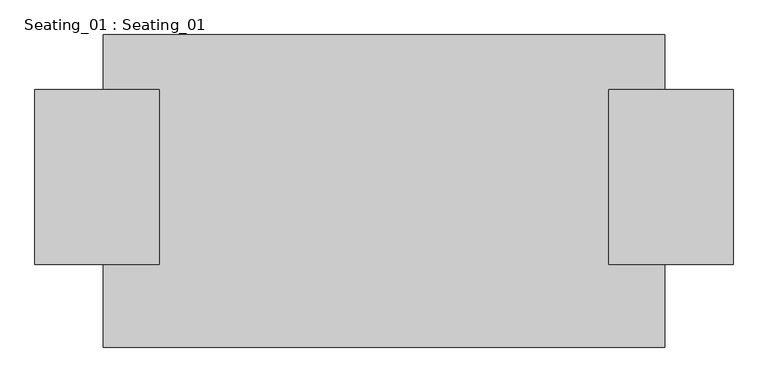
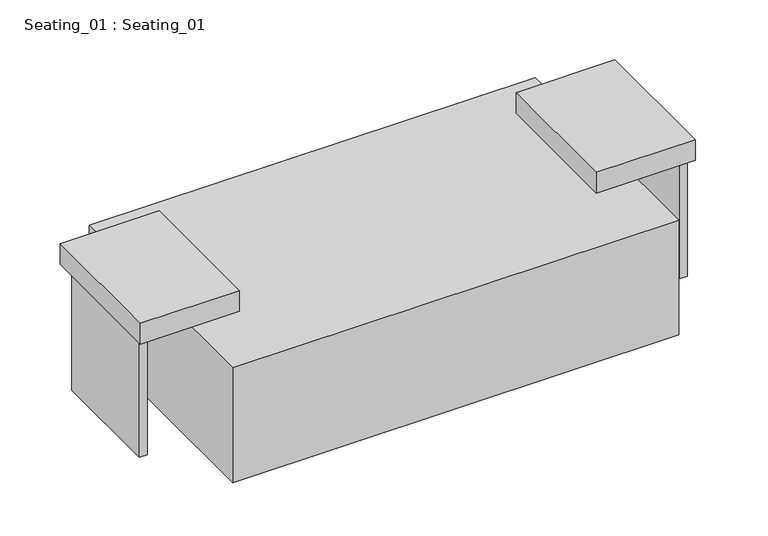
"""IFC4 building model written with IfcOpenShell, lengths in millimetres: furniture geometry, Seating_01 : Seating_01."""

from ifc_helpers import new_model, si_unit, frame, origin, place, context, project, spatial, polyline, outline, extrude, faceted_brep, source, transform, mapped, element, save


def seating_01_seating_01_b9a82e03(model_context):
    return source(origin(), model_context, "Body", "SolidModel", [
        faceted_brep([(-1018.777772, 1731.9056283, 7062.3993508), (-1018.777772, 1211.9056283, 7062.3993508), (-648.777772, 1211.9056283, 7062.3993508), (-648.777772, 1731.9056283, 7062.3993508), (-975.8762902, 1680.5689629, 6510.0), (-975.8762902, 1240.5689629, 6510.0), (-1005.8762902, 1240.5689629, 6510.0), (-1005.8762902, 1680.5689629, 6510.0), (-648.777772, 1731.9056283, 6980.8444364), (-1018.777772, 1731.9056283, 6980.8444364), (-648.777772, 1211.9056283, 6980.8444364), (-1018.777772, 1211.9056283, 6980.8444364), (-975.8762902, 1240.5689629, 6980.8444364), (-975.8762902, 1680.5689629, 6980.8444364), (-1005.8762902, 1680.5689629, 6980.8444364), (-1005.8762902, 1240.5689629, 6980.8444364)], [[[0, 1, 2, 3]], [[4, 5, 6, 7]], [[0, 3, 8, 9]], [[3, 2, 10, 8]], [[2, 1, 11, 10]], [[1, 0, 9, 11]], [[9, 8, 10, 11], [12, 13, 14, 15]], [[13, 12, 5, 4]], [[14, 13, 4, 7]], [[15, 14, 7, 6]], [[12, 15, 6, 5]]]),
        faceted_brep([(1057.6176699, 1731.9056283, 7062.3993508), (687.6176699, 1731.9056283, 7062.3993508), (687.6176699, 1211.9056283, 7062.3993508), (1057.6176699, 1211.9056283, 7062.3993508), (1014.7161881, 1240.5689629, 6510.0), (1014.7161881, 1680.5689629, 6510.0), (1044.7161881, 1680.5689629, 6510.0), (1044.7161881, 1240.5689629, 6510.0), (1057.6176699, 1731.9056283, 6980.8444364), (687.6176699, 1731.9056283, 6980.8444364), (687.6176699, 1211.9056283, 6980.8444364), (1057.6176699, 1211.9056283, 6980.8444364), (1014.7161881, 1240.5689629, 6980.8444364), (1044.7161881, 1240.5689629, 6980.8444364), (1044.7161881, 1680.5689629, 6980.8444364), (1014.7161881, 1680.5689629, 6980.8444364)], [[[0, 1, 2, 3]], [[4, 5, 6, 7]], [[1, 0, 8, 9]], [[2, 1, 9, 10]], [[3, 2, 10, 11]], [[0, 3, 11, 8]], [[9, 8, 11, 10], [12, 13, 14, 15]], [[12, 15, 5, 4]], [[15, 14, 6, 5]], [[14, 13, 7, 6]], [[13, 12, 4, 7]]]),
        extrude(outline(polyline([(854.419949, 1895.5833301), (854.419949, 965.867059), (-815.580051, 965.867059), (-815.580051, 1895.5833301), (854.419949, 1895.5833301)])), frame((0.0, 0.0, 6510.0), z_axis=(0.0, 0.0, 1.0), x_axis=(1.0, 0.0, 0.0)), (0.0, 0.0, 1.0), 454.0653257),
    ])


if __name__ == "__main__":
    model = new_model("IFC4")
    model_context = context("Model", 3, world=origin())
    ifc_project = project(units=[si_unit("LENGTHUNIT", "METRE", prefix="MILLI")], contexts=[model_context])
    site = spatial("IfcSite", under=ifc_project)
    building = spatial("IfcBuilding", under=site)
    placement = place(None, origin())
    seating_01_seating_01_shape = seating_01_seating_01_b9a82e03(model_context)
    element("IfcFurniture", 1, ObjectType="Seating_01 : Seating_01", at=placement, inside=building, context=model_context, shape_type="MappedRepresentation", body=[
        mapped(seating_01_seating_01_shape, transform((0.0, 0.0, 0.0), x_axis=(1.0, 0.0, 0.0), y_axis=(0.0, 1.0, 0.0), z_axis=(0.0, 0.0, 1.0))),
    ])
    save(model, "model.ifc")
